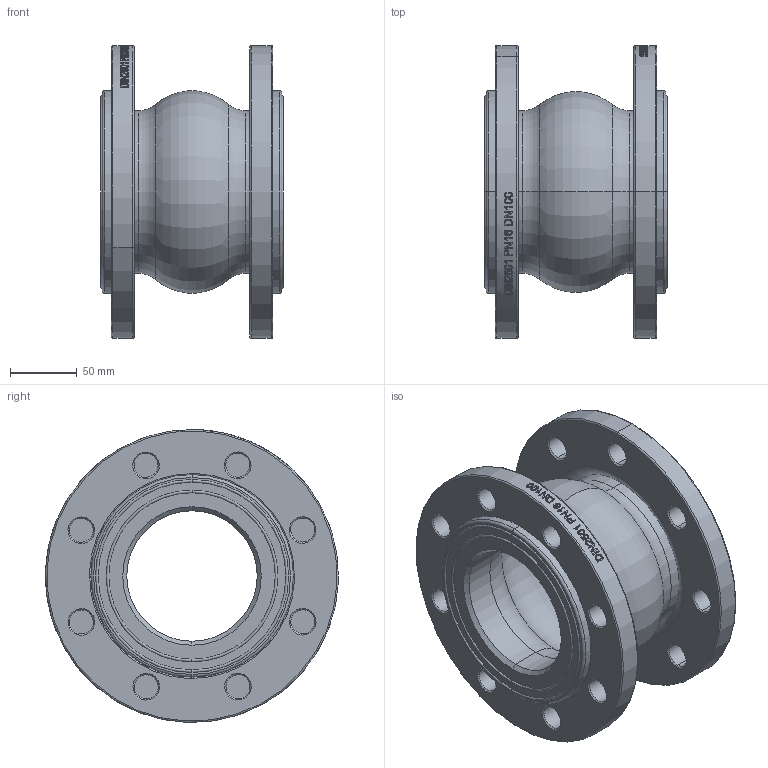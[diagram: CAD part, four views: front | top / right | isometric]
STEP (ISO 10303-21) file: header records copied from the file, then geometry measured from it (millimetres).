
FILE_DESCRIPTION (( 'STEP AP203' ), '1' );
FILE_NAME ('DN100 PN16.STEP', '2026-07-16T06:18:06', ( 'Windows 蚚誧' ), ( '' ), 'SwSTEP 2.0', 'SolidWorks 2018', '' );
FILE_SCHEMA (( 'CONFIG_CONTROL_DESIGN' ));
Length unit declared in the file: millimetre
Products named in the file (3): DN100 PN16; DN100-135
Assembly tree (3 placements, depth 2):
  DN100 PN16
    DN100-135
    DN100 PN16  x2
Bounding box: 137 x 220 x 220 mm (x, y, z)
Volume: 1490376.2 mm3; surface area: 302570.3 mm2
Topology: 3 solids, 3 shells, 598 faces, 1480 edges, 944 vertices
Faces by surface type: bspline 206, plane 154, cylinder 106, cone 72, torus 60
Entity records: 30257 total; most frequent: CARTESIAN_POINT 22844, ORIENTED_EDGE 1608, DIRECTION 1229, EDGE_CURVE 804, AXIS2_PLACEMENT_3D 520, VERTEX_POINT 508, EDGE_LOOP 382, ADVANCED_FACE 331
